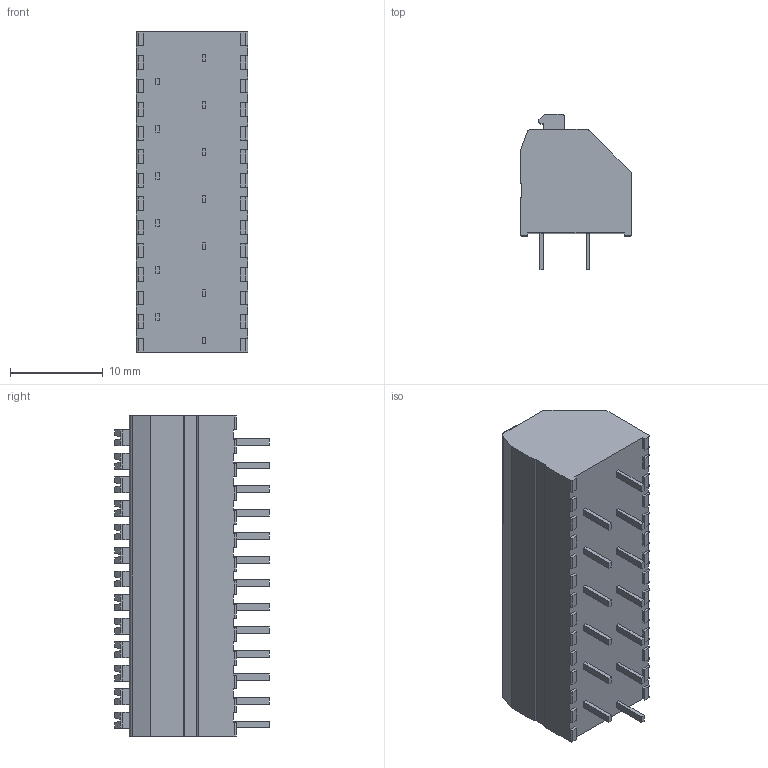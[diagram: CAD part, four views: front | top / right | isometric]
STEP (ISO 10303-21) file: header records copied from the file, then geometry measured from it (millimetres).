
FILE_DESCRIPTION(/* description */ ('STEP AP214'),/* implementation_level */ '2;1');
FILE_NAME(/* name */ '250-1413',/* time_stamp */ '2022-10-03T17:48:39+02:00',/* author */ ('License CC BY-ND 4.0'),/* organization */ ('CADENAS'),/* preprocessor_version */ 'ST-DEVELOPER v18.102',/* originating_system */ 'PARTsolutions',/* authorisation */ ' ');
FILE_SCHEMA (('AUTOMOTIVE_DESIGN {1 0 10303 214 3 1 1}'));
Length unit declared in the file: millimetre
Products named in the file (1): 250-1413
Bounding box: 12 x 16.7 x 34.52 mm (x, y, z)
Volume: 4197.4 mm3; surface area: 2210.8 mm2
Topology: 1 solids, 1 shells, 593 faces, 1617 edges, 1052 vertices
Faces by surface type: plane 456, cylinder 111, cone 26
Entity records: 18557 total; most frequent: CARTESIAN_POINT 3263, ORIENTED_EDGE 3234, DIRECTION 3105, EDGE_CURVE 1617, LINE 1317, VECTOR 1317, VERTEX_POINT 1052, AXIS2_PLACEMENT_3D 894
